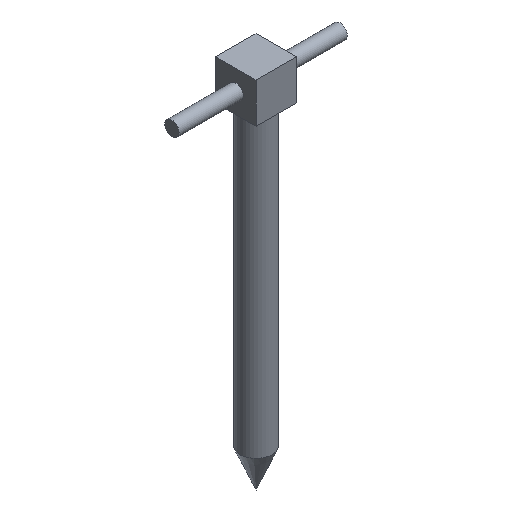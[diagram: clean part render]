
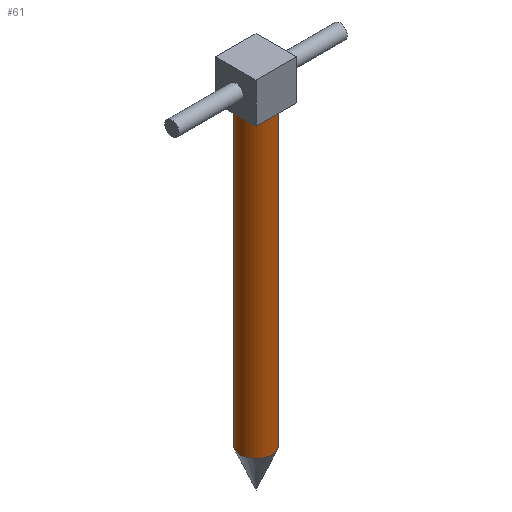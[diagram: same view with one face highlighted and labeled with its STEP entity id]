
A CAD part, isometric view. The second image highlights one B-rep face of the part: STEP entity #61.
In plain terms, the highlighted cylindrical face has radius 20 mm (diameter 40 mm), a full revolution.
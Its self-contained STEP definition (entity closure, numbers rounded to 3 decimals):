
#61=ADVANCED_FACE('',(#129,#131),#133,.T.);
#129=FACE_OUTER_BOUND('',#130,.T.);
#130=EDGE_LOOP('',(#191));
#131=FACE_OUTER_BOUND('',#132,.T.);
#132=EDGE_LOOP('',(#192));
#133=CYLINDRICAL_SURFACE('',#134,20.);
#134=AXIS2_PLACEMENT_3D('',#135,#136,#137);
#135=CARTESIAN_POINT('',(0.,0.,130.));
#136=DIRECTION('',(0.,0.,-1.));
#137=DIRECTION('',(-1.,0.,0.));
#191=ORIENTED_EDGE('',*,*,#208,.F.);
#192=ORIENTED_EDGE('',*,*,#213,.F.);
#208=EDGE_CURVE('',#235,#235,#236,.F.);
#213=EDGE_CURVE('',#243,#243,#244,.T.);
#235=VERTEX_POINT('',#291);
#236=CIRCLE('',#292,20.);
#243=VERTEX_POINT('',#311);
#244=CIRCLE('',#312,20.);
#291=CARTESIAN_POINT('',(-20.,0.,130.));
#292=AXIS2_PLACEMENT_3D('',#293,#294,#295);
#293=CARTESIAN_POINT('',(0.,0.,130.));
#294=DIRECTION('',(0.,0.,-1.));
#295=DIRECTION('',(-1.,0.,0.));
#311=CARTESIAN_POINT('',(-20.,0.,-240.));
#312=AXIS2_PLACEMENT_3D('',#313,#314,#315);
#313=CARTESIAN_POINT('',(0.,0.,-240.));
#314=DIRECTION('',(0.,0.,-1.));
#315=DIRECTION('',(-1.,0.,0.));
